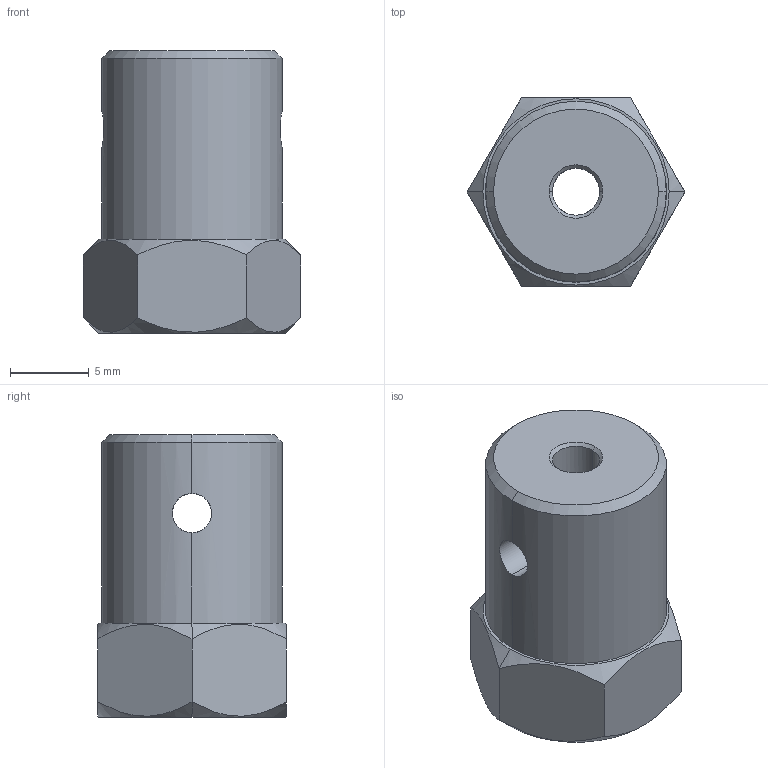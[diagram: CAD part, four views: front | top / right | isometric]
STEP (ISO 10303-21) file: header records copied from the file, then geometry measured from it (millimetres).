
FILE_DESCRIPTION (( 'STEP AP214' ), '1' );
FILE_NAME ('18056-3D.STEP', '2018-12-28T03:09:04', ( 'Windows 蚚誧' ), ( '' ), 'SwSTEP 2.0', 'SolidWorks 2018', '' );
FILE_SCHEMA (( 'AUTOMOTIVE_DESIGN' ));
Length unit declared in the file: millimetre
Products named in the file (1): 18056-3D
Bounding box: 13.86 x 12 x 18 mm (x, y, z)
Volume: 1802.7 mm3; surface area: 1110 mm2
Topology: 1 solids, 1 shells, 29 faces, 70 edges, 40 vertices
Faces by surface type: cone 10, cylinder 10, plane 9
Entity records: 1176 total; most frequent: CARTESIAN_POINT 464, ORIENTED_EDGE 140, DIRECTION 130, EDGE_CURVE 70, AXIS2_PLACEMENT_3D 50, VERTEX_POINT 40, EDGE_LOOP 32, VECTOR 30
